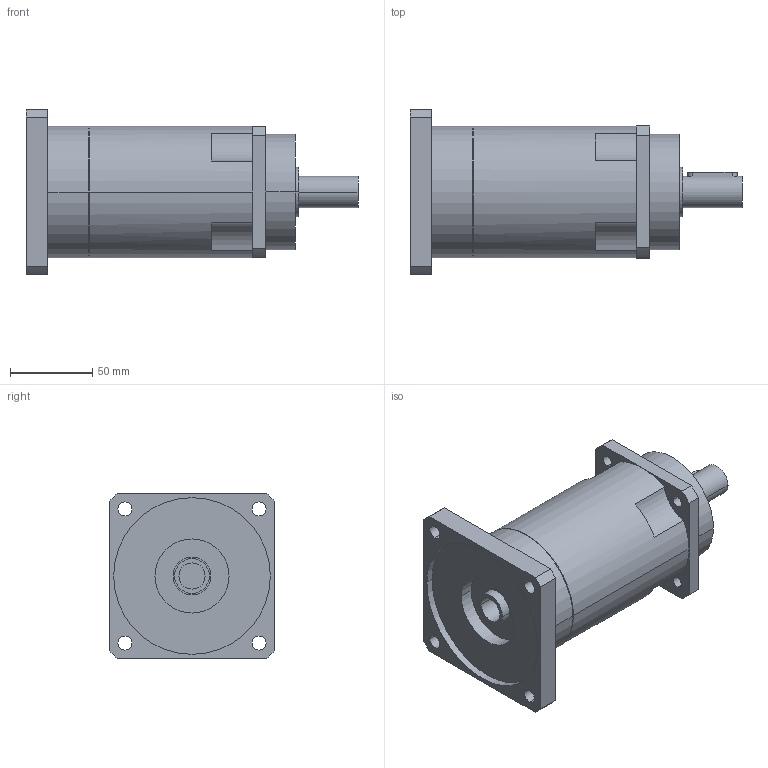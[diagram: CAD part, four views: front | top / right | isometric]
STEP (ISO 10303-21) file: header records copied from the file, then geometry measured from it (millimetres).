
FILE_DESCRIPTION(('CoCreate Modeling STEP Export'),'2;1');
FILE_NAME('GPR100_ig-48-64-80-100-120-144-180-216_19_B5_15.87_P07.stp','2014-08-26T11:55:34',(''),(''),'CoCreate Modeling STEP processor for AP214 (Solid Model)','CoCreate Modeling 16.00C 25-Feb-2009 (C) Parametric Technology GmbH','');
FILE_SCHEMA(('AUTOMOTIVE_DESIGN { 1 0 10303 214 1 1 1 1 }'));
Length unit declared in the file: millimetre
Products named in the file (2): GPR100_ig-48-64-80-100-120-144-180-216_19_B5_15.87_P07
Assembly tree (1 placements, depth 2):
  GPR100_ig-48-64-80-100-120-144-180-216_19_B5_15.87_P07
    GPR100_ig-48-64-80-100-120-144-180-216_19_B5_15.87_P07
Bounding box: 201.4 x 100 x 100 mm (x, y, z)
Volume: 823406.6 mm3; surface area: 75045.7 mm2
Topology: 1 solids, 1 shells, 89 faces, 245 edges, 167 vertices
Faces by surface type: cylinder 52, plane 31, cone 6
Entity records: 2602 total; most frequent: ORIENTED_EDGE 486, CARTESIAN_POINT 472, DIRECTION 386, EDGE_CURVE 243, VERTEX_POINT 167, AXIS2_PLACEMENT_3D 145, EDGE_LOOP 116, VECTOR 96
